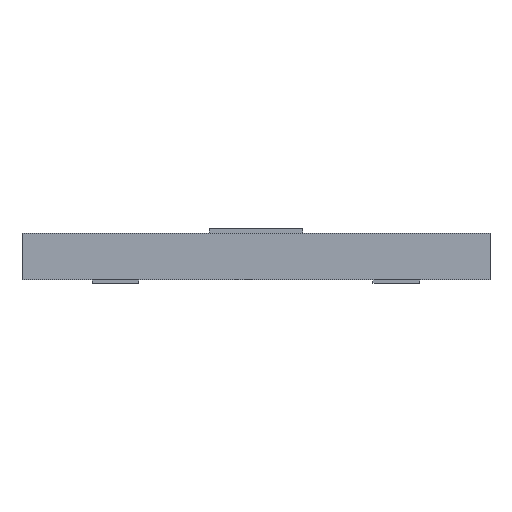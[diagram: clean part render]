
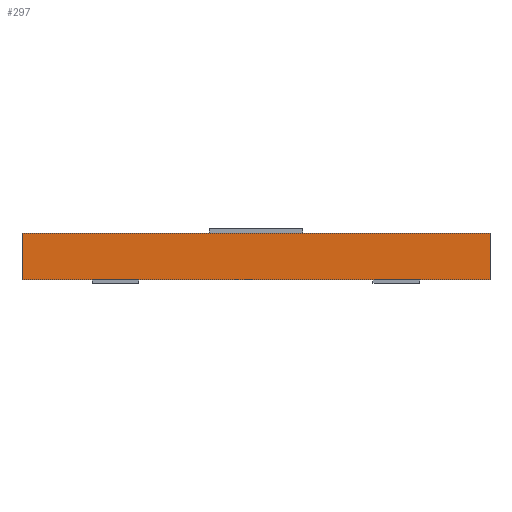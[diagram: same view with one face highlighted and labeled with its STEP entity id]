
A CAD part, front view. The second image highlights one B-rep face of the part: STEP entity #297.
In plain terms, the highlighted planar face has unit normal (0, -1, 0).
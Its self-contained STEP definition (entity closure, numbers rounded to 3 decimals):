
#75 = EDGE_CURVE('',#76,#78,#80,.T.);
#76 = VERTEX_POINT('',#77);
#77 = CARTESIAN_POINT('',(-1000.,-780.,950.));
#78 = VERTEX_POINT('',#79);
#79 = CARTESIAN_POINT('',(-1000.,-780.,1150.));
#80 = SURFACE_CURVE('',#81,(#85,#97),.PCURVE_S1.);
#81 = LINE('',#82,#83);
#82 = CARTESIAN_POINT('',(-1000.,-780.,950.));
#83 = VECTOR('',#84,1.);
#84 = DIRECTION('',(0.,0.,1.));
#85 = PCURVE('',#86,#91);
#86 = PLANE('',#87);
#87 = AXIS2_PLACEMENT_3D('',#88,#89,#90);
#88 = CARTESIAN_POINT('',(-1000.,-780.,950.));
#89 = DIRECTION('',(1.,0.,0.));
#90 = DIRECTION('',(0.,0.,1.));
#91 = DEFINITIONAL_REPRESENTATION('',(#92),#96);
#92 = LINE('',#93,#94);
#93 = CARTESIAN_POINT('',(0.,0.));
#94 = VECTOR('',#95,1.);
#95 = DIRECTION('',(1.,0.));
#96 = ( GEOMETRIC_REPRESENTATION_CONTEXT(2) 
PARAMETRIC_REPRESENTATION_CONTEXT() REPRESENTATION_CONTEXT('2D SPACE',''
  ) );
#97 = PCURVE('',#98,#103);
#98 = PLANE('',#99);
#99 = AXIS2_PLACEMENT_3D('',#100,#101,#102);
#100 = CARTESIAN_POINT('',(-1000.,-780.,950.));
#101 = DIRECTION('',(0.,1.,0.));
#102 = DIRECTION('',(0.,0.,1.));
#103 = DEFINITIONAL_REPRESENTATION('',(#104),#108);
#104 = LINE('',#105,#106);
#105 = CARTESIAN_POINT('',(0.,0.));
#106 = VECTOR('',#107,1.);
#107 = DIRECTION('',(1.,0.));
#108 = ( GEOMETRIC_REPRESENTATION_CONTEXT(2) 
PARAMETRIC_REPRESENTATION_CONTEXT() REPRESENTATION_CONTEXT('2D SPACE',''
  ) );
#126 = PLANE('',#127);
#127 = AXIS2_PLACEMENT_3D('',#128,#129,#130);
#128 = CARTESIAN_POINT('',(-1000.,-780.,950.));
#129 = DIRECTION('',(0.,0.,1.));
#130 = DIRECTION('',(1.,0.,0.));
#180 = PLANE('',#181);
#181 = AXIS2_PLACEMENT_3D('',#182,#183,#184);
#182 = CARTESIAN_POINT('',(-1000.,-780.,1150.));
#183 = DIRECTION('',(0.,0.,1.));
#184 = DIRECTION('',(1.,0.,0.));
#297 = ADVANCED_FACE('',(#298),#98,.F.);
#298 = FACE_BOUND('',#299,.F.);
#299 = EDGE_LOOP('',(#300,#323,#324,#347));
#300 = ORIENTED_EDGE('',*,*,#301,.F.);
#301 = EDGE_CURVE('',#76,#302,#304,.T.);
#302 = VERTEX_POINT('',#303);
#303 = CARTESIAN_POINT('',(1000.,-780.,950.));
#304 = SURFACE_CURVE('',#305,(#309,#316),.PCURVE_S1.);
#305 = LINE('',#306,#307);
#306 = CARTESIAN_POINT('',(-1000.,-780.,950.));
#307 = VECTOR('',#308,1.);
#308 = DIRECTION('',(1.,0.,0.));
#309 = PCURVE('',#98,#310);
#310 = DEFINITIONAL_REPRESENTATION('',(#311),#315);
#311 = LINE('',#312,#313);
#312 = CARTESIAN_POINT('',(0.,0.));
#313 = VECTOR('',#314,1.);
#314 = DIRECTION('',(0.,1.));
#315 = ( GEOMETRIC_REPRESENTATION_CONTEXT(2) 
PARAMETRIC_REPRESENTATION_CONTEXT() REPRESENTATION_CONTEXT('2D SPACE',''
  ) );
#316 = PCURVE('',#126,#317);
#317 = DEFINITIONAL_REPRESENTATION('',(#318),#322);
#318 = LINE('',#319,#320);
#319 = CARTESIAN_POINT('',(0.,0.));
#320 = VECTOR('',#321,1.);
#321 = DIRECTION('',(1.,0.));
#322 = ( GEOMETRIC_REPRESENTATION_CONTEXT(2) 
PARAMETRIC_REPRESENTATION_CONTEXT() REPRESENTATION_CONTEXT('2D SPACE',''
  ) );
#323 = ORIENTED_EDGE('',*,*,#75,.T.);
#324 = ORIENTED_EDGE('',*,*,#325,.T.);
#325 = EDGE_CURVE('',#78,#326,#328,.T.);
#326 = VERTEX_POINT('',#327);
#327 = CARTESIAN_POINT('',(1000.,-780.,1150.));
#328 = SURFACE_CURVE('',#329,(#333,#340),.PCURVE_S1.);
#329 = LINE('',#330,#331);
#330 = CARTESIAN_POINT('',(-1000.,-780.,1150.));
#331 = VECTOR('',#332,1.);
#332 = DIRECTION('',(1.,0.,0.));
#333 = PCURVE('',#98,#334);
#334 = DEFINITIONAL_REPRESENTATION('',(#335),#339);
#335 = LINE('',#336,#337);
#336 = CARTESIAN_POINT('',(200.,0.));
#337 = VECTOR('',#338,1.);
#338 = DIRECTION('',(0.,1.));
#339 = ( GEOMETRIC_REPRESENTATION_CONTEXT(2) 
PARAMETRIC_REPRESENTATION_CONTEXT() REPRESENTATION_CONTEXT('2D SPACE',''
  ) );
#340 = PCURVE('',#180,#341);
#341 = DEFINITIONAL_REPRESENTATION('',(#342),#346);
#342 = LINE('',#343,#344);
#343 = CARTESIAN_POINT('',(0.,0.));
#344 = VECTOR('',#345,1.);
#345 = DIRECTION('',(1.,0.));
#346 = ( GEOMETRIC_REPRESENTATION_CONTEXT(2) 
PARAMETRIC_REPRESENTATION_CONTEXT() REPRESENTATION_CONTEXT('2D SPACE',''
  ) );
#347 = ORIENTED_EDGE('',*,*,#348,.F.);
#348 = EDGE_CURVE('',#302,#326,#349,.T.);
#349 = SURFACE_CURVE('',#350,(#354,#361),.PCURVE_S1.);
#350 = LINE('',#351,#352);
#351 = CARTESIAN_POINT('',(1000.,-780.,950.));
#352 = VECTOR('',#353,1.);
#353 = DIRECTION('',(0.,0.,1.));
#354 = PCURVE('',#98,#355);
#355 = DEFINITIONAL_REPRESENTATION('',(#356),#360);
#356 = LINE('',#357,#358);
#357 = CARTESIAN_POINT('',(0.,2000.));
#358 = VECTOR('',#359,1.);
#359 = DIRECTION('',(1.,0.));
#360 = ( GEOMETRIC_REPRESENTATION_CONTEXT(2) 
PARAMETRIC_REPRESENTATION_CONTEXT() REPRESENTATION_CONTEXT('2D SPACE',''
  ) );
#361 = PCURVE('',#362,#367);
#362 = PLANE('',#363);
#363 = AXIS2_PLACEMENT_3D('',#364,#365,#366);
#364 = CARTESIAN_POINT('',(1000.,-780.,950.));
#365 = DIRECTION('',(1.,0.,0.));
#366 = DIRECTION('',(0.,0.,1.));
#367 = DEFINITIONAL_REPRESENTATION('',(#368),#372);
#368 = LINE('',#369,#370);
#369 = CARTESIAN_POINT('',(0.,0.));
#370 = VECTOR('',#371,1.);
#371 = DIRECTION('',(1.,0.));
#372 = ( GEOMETRIC_REPRESENTATION_CONTEXT(2) 
PARAMETRIC_REPRESENTATION_CONTEXT() REPRESENTATION_CONTEXT('2D SPACE',''
  ) );
